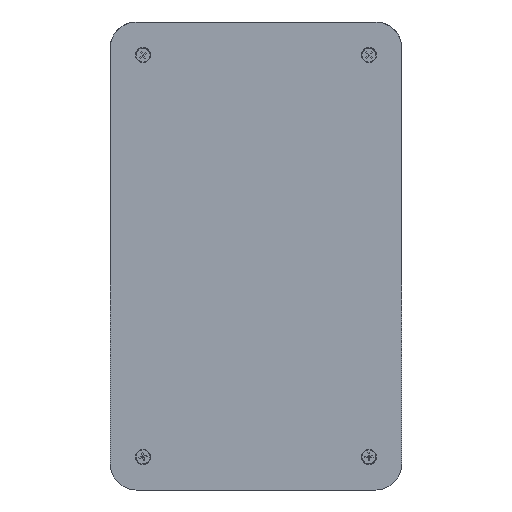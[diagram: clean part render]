
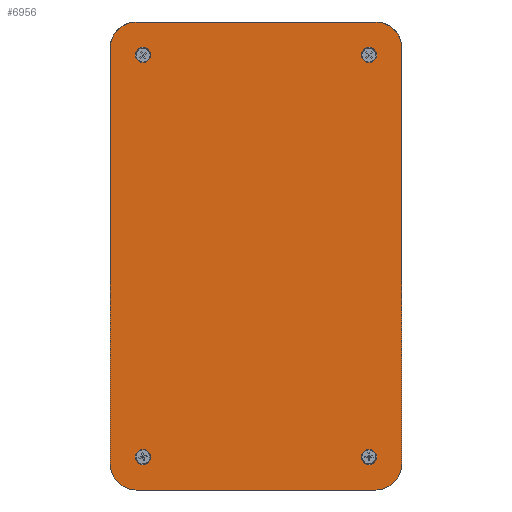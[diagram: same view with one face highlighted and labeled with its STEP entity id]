
A CAD part, front view. The second image highlights one B-rep face of the part: STEP entity #6956.
In plain terms, the highlighted planar face has unit normal (0, -1, 0).
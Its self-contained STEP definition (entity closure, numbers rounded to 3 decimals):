
#65 = CARTESIAN_POINT ( 'NONE',  ( 61.9, 0., 32.4 ) ) ;
#211 = CIRCLE ( 'NONE', #6605, 2.35 ) ;
#307 = CARTESIAN_POINT ( 'NONE',  ( -72., 0., 36.9 ) ) ;
#366 = AXIS2_PLACEMENT_3D ( 'NONE', #7185, #2402, #7984 ) ;
#429 = DIRECTION ( 'NONE',  ( 0., 0., -1. ) ) ;
#446 = DIRECTION ( 'NONE',  ( 0., -1., 0. ) ) ;
#454 = CIRCLE ( 'NONE', #10184, 2.35 ) ;
#575 = CIRCLE ( 'NONE', #4469, 2.35 ) ;
#652 = VECTOR ( 'NONE', #2454, 1000. ) ;
#725 = ORIENTED_EDGE ( 'NONE', *, *, #2267, .F. ) ;
#818 = CARTESIAN_POINT ( 'NONE',  ( -61.9, 0., 34.75 ) ) ;
#847 = CARTESIAN_POINT ( 'NONE',  ( 72., 0., -44.9 ) ) ;
#882 = AXIS2_PLACEMENT_3D ( 'NONE', #9959, #5237, #429 ) ;
#891 = CIRCLE ( 'NONE', #9687, 2.35 ) ;
#999 = EDGE_CURVE ( 'NONE', #7585, #5527, #5336, .T. ) ;
#1167 = VERTEX_POINT ( 'NONE', #8563 ) ;
#1203 = CARTESIAN_POINT ( 'NONE',  ( -72., 0., -44.9 ) ) ;
#1340 = VECTOR ( 'NONE', #7678, 1000. ) ;
#1447 = EDGE_CURVE ( 'NONE', #1167, #1453, #7832, .T. ) ;
#1453 = VERTEX_POINT ( 'NONE', #5534 ) ;
#1506 = ORIENTED_EDGE ( 'NONE', *, *, #4042, .F. ) ;
#1554 = DIRECTION ( 'NONE',  ( 0., -1., 0. ) ) ;
#1594 = EDGE_CURVE ( 'NONE', #3766, #2377, #211, .T. ) ;
#1617 = DIRECTION ( 'NONE',  ( 0., 0., -1. ) ) ;
#1668 = EDGE_CURVE ( 'NONE', #8122, #8019, #4206, .T. ) ;
#1929 = DIRECTION ( 'NONE',  ( 0., -1., 0. ) ) ;
#1980 = ORIENTED_EDGE ( 'NONE', *, *, #1447, .F. ) ;
#2050 = CARTESIAN_POINT ( 'NONE',  ( -72., 0., 44.9 ) ) ;
#2248 = EDGE_CURVE ( 'NONE', #8077, #7380, #454, .T. ) ;
#2267 = EDGE_CURVE ( 'NONE', #3970, #5275, #4447, .T. ) ;
#2294 = CARTESIAN_POINT ( 'NONE',  ( 0., 0., 0. ) ) ;
#2328 = VECTOR ( 'NONE', #8451, 1000. ) ;
#2377 = VERTEX_POINT ( 'NONE', #9058 ) ;
#2402 = DIRECTION ( 'NONE',  ( 0., -1., 0. ) ) ;
#2417 = EDGE_CURVE ( 'NONE', #3970, #9662, #2705, .T. ) ;
#2435 = CARTESIAN_POINT ( 'NONE',  ( 64., 0., 44.9 ) ) ;
#2454 = DIRECTION ( 'NONE',  ( 0., 0., -1. ) ) ;
#2480 = EDGE_CURVE ( 'NONE', #4654, #9662, #4323, .T. ) ;
#2529 = AXIS2_PLACEMENT_3D ( 'NONE', #6340, #1554, #7156 ) ;
#2705 = CIRCLE ( 'NONE', #6838, 8. ) ;
#2793 = EDGE_LOOP ( 'NONE', ( #1980, #1506 ) ) ;
#2797 = DIRECTION ( 'NONE',  ( 0., 0., 1. ) ) ;
#2801 = EDGE_CURVE ( 'NONE', #7585, #6793, #9552, .T. ) ;
#2898 = CARTESIAN_POINT ( 'NONE',  ( -72., 0., -44.9 ) ) ;
#2998 = EDGE_CURVE ( 'NONE', #6461, #6793, #6530, .T. ) ;
#3037 = ORIENTED_EDGE ( 'NONE', *, *, #2801, .T. ) ;
#3099 = CARTESIAN_POINT ( 'NONE',  ( -64., 0., -36.9 ) ) ;
#3236 = CARTESIAN_POINT ( 'NONE',  ( 64., 0., -44.9 ) ) ;
#3251 = FACE_BOUND ( 'NONE', #3874, .T. ) ;
#3286 = EDGE_CURVE ( 'NONE', #4654, #5527, #8518, .T. ) ;
#3289 = DIRECTION ( 'NONE',  ( 0., -1., 0. ) ) ;
#3337 = EDGE_CURVE ( 'NONE', #6461, #5275, #8013, .T. ) ;
#3339 = ORIENTED_EDGE ( 'NONE', *, *, #3337, .T. ) ;
#3415 = CARTESIAN_POINT ( 'NONE',  ( 64., 0., -36.9 ) ) ;
#3419 = CARTESIAN_POINT ( 'NONE',  ( 61.9, 0., 34.75 ) ) ;
#3527 = EDGE_LOOP ( 'NONE', ( #725, #7111, #8597, #4923, #5709, #3037, #4697, #3339 ) ) ;
#3538 = CARTESIAN_POINT ( 'NONE',  ( 72., 0., -36.9 ) ) ;
#3766 = VERTEX_POINT ( 'NONE', #7058 ) ;
#3816 = EDGE_CURVE ( 'NONE', #7380, #8077, #891, .T. ) ;
#3874 = EDGE_LOOP ( 'NONE', ( #5866, #9029 ) ) ;
#3879 = DIRECTION ( 'NONE',  ( 0., 0., 1. ) ) ;
#3900 = CARTESIAN_POINT ( 'NONE',  ( -61.9, 0., -34.75 ) ) ;
#3906 = DIRECTION ( 'NONE',  ( 0., 0., 1. ) ) ;
#3932 = CARTESIAN_POINT ( 'NONE',  ( -72., 0., -36.9 ) ) ;
#3970 = VERTEX_POINT ( 'NONE', #6696 ) ;
#3995 = CARTESIAN_POINT ( 'NONE',  ( 64., 0., 36.9 ) ) ;
#4042 = EDGE_CURVE ( 'NONE', #1453, #1167, #9730, .T. ) ;
#4206 = CIRCLE ( 'NONE', #366, 2.35 ) ;
#4237 = DIRECTION ( 'NONE',  ( 0., 0., 1. ) ) ;
#4240 = DIRECTION ( 'NONE',  ( 0., 0., -1. ) ) ;
#4298 = ORIENTED_EDGE ( 'NONE', *, *, #8322, .F. ) ;
#4323 = LINE ( 'NONE', #1203, #6184 ) ;
#4447 = LINE ( 'NONE', #2050, #2328 ) ;
#4469 = AXIS2_PLACEMENT_3D ( 'NONE', #3419, #9036, #4240 ) ;
#4495 = CIRCLE ( 'NONE', #8313, 2.35 ) ;
#4654 = VERTEX_POINT ( 'NONE', #3932 ) ;
#4697 = ORIENTED_EDGE ( 'NONE', *, *, #2998, .F. ) ;
#4741 = DIRECTION ( 'NONE',  ( 0., 0., -1. ) ) ;
#4742 = CARTESIAN_POINT ( 'NONE',  ( 72., 0., 36.9 ) ) ;
#4823 = DIRECTION ( 'NONE',  ( 0., 0., 1. ) ) ;
#4923 = ORIENTED_EDGE ( 'NONE', *, *, #3286, .T. ) ;
#5144 = FACE_OUTER_BOUND ( 'NONE', #3527, .T. ) ;
#5184 = CARTESIAN_POINT ( 'NONE',  ( -61.9, 0., 37.1 ) ) ;
#5237 = DIRECTION ( 'NONE',  ( 0., -1., 0. ) ) ;
#5253 = CARTESIAN_POINT ( 'NONE',  ( -61.9, 0., 34.75 ) ) ;
#5275 = VERTEX_POINT ( 'NONE', #2435 ) ;
#5336 = LINE ( 'NONE', #2898, #1340 ) ;
#5370 = FACE_BOUND ( 'NONE', #2793, .T. ) ;
#5445 = EDGE_CURVE ( 'NONE', #8019, #8122, #575, .T. ) ;
#5527 = VERTEX_POINT ( 'NONE', #7549 ) ;
#5534 = CARTESIAN_POINT ( 'NONE',  ( 61.9, 0., -32.4 ) ) ;
#5709 = ORIENTED_EDGE ( 'NONE', *, *, #999, .F. ) ;
#5841 = ORIENTED_EDGE ( 'NONE', *, *, #2248, .F. ) ;
#5866 = ORIENTED_EDGE ( 'NONE', *, *, #1668, .F. ) ;
#5983 = ORIENTED_EDGE ( 'NONE', *, *, #1594, .F. ) ;
#6033 = DIRECTION ( 'NONE',  ( 0., 0., -1. ) ) ;
#6184 = VECTOR ( 'NONE', #2797, 1000. ) ;
#6340 = CARTESIAN_POINT ( 'NONE',  ( 61.9, 0., -34.75 ) ) ;
#6399 = DIRECTION ( 'NONE',  ( 0., -1., 0. ) ) ;
#6461 = VERTEX_POINT ( 'NONE', #4742 ) ;
#6530 = LINE ( 'NONE', #847, #652 ) ;
#6535 = ORIENTED_EDGE ( 'NONE', *, *, #3816, .F. ) ;
#6605 = AXIS2_PLACEMENT_3D ( 'NONE', #3900, #9499, #4741 ) ;
#6696 = CARTESIAN_POINT ( 'NONE',  ( -64., 0., 44.9 ) ) ;
#6722 = CARTESIAN_POINT ( 'NONE',  ( -64., 0., 36.9 ) ) ;
#6793 = VERTEX_POINT ( 'NONE', #3538 ) ;
#6837 = AXIS2_PLACEMENT_3D ( 'NONE', #2294, #8730, #3906 ) ;
#6838 = AXIS2_PLACEMENT_3D ( 'NONE', #6722, #1929, #7538 ) ;
#6938 = AXIS2_PLACEMENT_3D ( 'NONE', #3995, #9587, #4823 ) ;
#6956 = ADVANCED_FACE ( 'NONE', ( #5370, #9352, #3251, #7745, #5144 ), #7118, .F. ) ;
#7058 = CARTESIAN_POINT ( 'NONE',  ( -61.9, 0., -37.1 ) ) ;
#7111 = ORIENTED_EDGE ( 'NONE', *, *, #2417, .T. ) ;
#7118 = PLANE ( 'NONE',  #6837 ) ;
#7156 = DIRECTION ( 'NONE',  ( 0., 0., -1. ) ) ;
#7185 = CARTESIAN_POINT ( 'NONE',  ( 61.9, 0., 34.75 ) ) ;
#7380 = VERTEX_POINT ( 'NONE', #5184 ) ;
#7538 = DIRECTION ( 'NONE',  ( 0., 0., 1. ) ) ;
#7549 = CARTESIAN_POINT ( 'NONE',  ( -64., 0., -44.9 ) ) ;
#7585 = VERTEX_POINT ( 'NONE', #3236 ) ;
#7678 = DIRECTION ( 'NONE',  ( -1., 0., 0. ) ) ;
#7745 = FACE_BOUND ( 'NONE', #8317, .T. ) ;
#7832 = CIRCLE ( 'NONE', #2529, 2.35 ) ;
#7920 = CARTESIAN_POINT ( 'NONE',  ( -61.9, 0., 32.4 ) ) ;
#7984 = DIRECTION ( 'NONE',  ( 0., 0., -1. ) ) ;
#8013 = CIRCLE ( 'NONE', #6938, 8. ) ;
#8019 = VERTEX_POINT ( 'NONE', #8672 ) ;
#8062 = CARTESIAN_POINT ( 'NONE',  ( -61.9, 0., -34.75 ) ) ;
#8077 = VERTEX_POINT ( 'NONE', #7920 ) ;
#8122 = VERTEX_POINT ( 'NONE', #65 ) ;
#8202 = AXIS2_PLACEMENT_3D ( 'NONE', #3099, #8694, #3879 ) ;
#8313 = AXIS2_PLACEMENT_3D ( 'NONE', #8062, #3289, #8886 ) ;
#8317 = EDGE_LOOP ( 'NONE', ( #5841, #6535 ) ) ;
#8322 = EDGE_CURVE ( 'NONE', #2377, #3766, #4495, .T. ) ;
#8451 = DIRECTION ( 'NONE',  ( 1., 0., 0. ) ) ;
#8518 = CIRCLE ( 'NONE', #8202, 8. ) ;
#8558 = EDGE_LOOP ( 'NONE', ( #5983, #4298 ) ) ;
#8563 = CARTESIAN_POINT ( 'NONE',  ( 61.9, 0., -37.1 ) ) ;
#8597 = ORIENTED_EDGE ( 'NONE', *, *, #2480, .F. ) ;
#8649 = AXIS2_PLACEMENT_3D ( 'NONE', #3415, #9031, #4237 ) ;
#8672 = CARTESIAN_POINT ( 'NONE',  ( 61.9, 0., 37.1 ) ) ;
#8694 = DIRECTION ( 'NONE',  ( 0., -1., 0. ) ) ;
#8730 = DIRECTION ( 'NONE',  ( 0., 1., 0. ) ) ;
#8886 = DIRECTION ( 'NONE',  ( 0., 0., -1. ) ) ;
#9029 = ORIENTED_EDGE ( 'NONE', *, *, #5445, .F. ) ;
#9031 = DIRECTION ( 'NONE',  ( 0., -1., 0. ) ) ;
#9036 = DIRECTION ( 'NONE',  ( 0., -1., 0. ) ) ;
#9058 = CARTESIAN_POINT ( 'NONE',  ( -61.9, 0., -32.4 ) ) ;
#9352 = FACE_BOUND ( 'NONE', #8558, .T. ) ;
#9499 = DIRECTION ( 'NONE',  ( 0., -1., 0. ) ) ;
#9552 = CIRCLE ( 'NONE', #8649, 8. ) ;
#9587 = DIRECTION ( 'NONE',  ( 0., -1., 0. ) ) ;
#9662 = VERTEX_POINT ( 'NONE', #307 ) ;
#9687 = AXIS2_PLACEMENT_3D ( 'NONE', #818, #6399, #1617 ) ;
#9730 = CIRCLE ( 'NONE', #882, 2.35 ) ;
#9959 = CARTESIAN_POINT ( 'NONE',  ( 61.9, 0., -34.75 ) ) ;
#10184 = AXIS2_PLACEMENT_3D ( 'NONE', #5253, #446, #6033 ) ;
